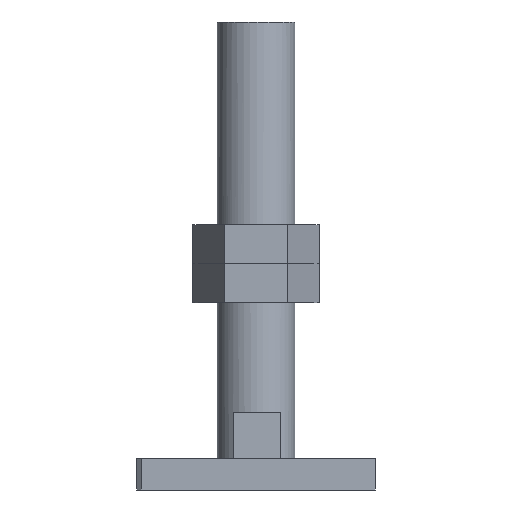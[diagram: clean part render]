
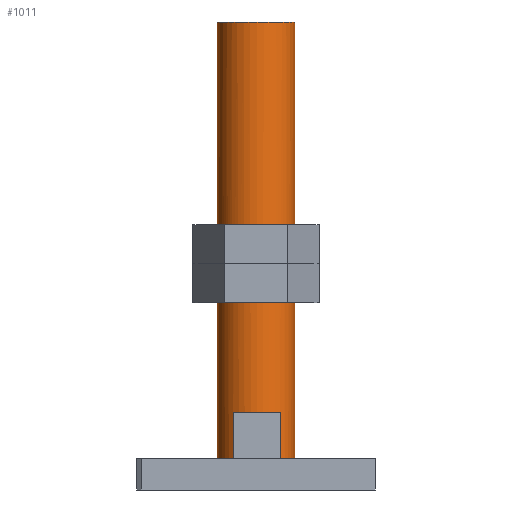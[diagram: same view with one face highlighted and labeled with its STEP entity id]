
A CAD part, front view. The second image highlights one B-rep face of the part: STEP entity #1011.
In plain terms, the highlighted cylindrical face has radius 5 mm (diameter 10 mm), a partial arc.
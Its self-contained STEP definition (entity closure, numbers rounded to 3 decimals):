
#72 = CARTESIAN_POINT ( 'NONE',  ( 0., 0., 4. ) ) ;
#95 = DIRECTION ( 'NONE',  ( 0., 0., -1. ) ) ;
#96 = EDGE_CURVE ( 'NONE', #205, #1031, #1049, .T. ) ;
#99 = LINE ( 'NONE', #373, #568 ) ;
#111 = CARTESIAN_POINT ( 'NONE',  ( -5., 0., 60. ) ) ;
#113 = DIRECTION ( 'NONE',  ( 0., 0., -1. ) ) ;
#117 = VECTOR ( 'NONE', #1103, 1000. ) ;
#135 = ORIENTED_EDGE ( 'NONE', *, *, #1098, .T. ) ;
#142 = VERTEX_POINT ( 'NONE', #111 ) ;
#152 = EDGE_CURVE ( 'NONE', #142, #787, #929, .T. ) ;
#154 = CARTESIAN_POINT ( 'NONE',  ( 3., -4., 60. ) ) ;
#175 = ORIENTED_EDGE ( 'NONE', *, *, #585, .T. ) ;
#178 = DIRECTION ( 'NONE',  ( 1., 0., 0. ) ) ;
#184 = CARTESIAN_POINT ( 'NONE',  ( -3., -4., 60. ) ) ;
#205 = VERTEX_POINT ( 'NONE', #578 ) ;
#221 = DIRECTION ( 'NONE',  ( -1., 0., 0. ) ) ;
#229 = CIRCLE ( 'NONE', #1000, 5. ) ;
#250 = AXIS2_PLACEMENT_3D ( 'NONE', #664, #979, #501 ) ;
#264 = DIRECTION ( 'NONE',  ( 0., 0., -1. ) ) ;
#315 = CARTESIAN_POINT ( 'NONE',  ( 0., 0., 4. ) ) ;
#373 = CARTESIAN_POINT ( 'NONE',  ( 5., 0., 60. ) ) ;
#374 = VERTEX_POINT ( 'NONE', #537 ) ;
#419 = EDGE_CURVE ( 'NONE', #690, #1059, #229, .T. ) ;
#421 = CARTESIAN_POINT ( 'NONE',  ( 3., -4., 10. ) ) ;
#429 = FACE_OUTER_BOUND ( 'NONE', #624, .T. ) ;
#451 = VECTOR ( 'NONE', #113, 1000. ) ;
#486 = CARTESIAN_POINT ( 'NONE',  ( -5., 0., 4. ) ) ;
#501 = DIRECTION ( 'NONE',  ( 1., 0., 0. ) ) ;
#508 = DIRECTION ( 'NONE',  ( 1., 0., 0. ) ) ;
#537 = CARTESIAN_POINT ( 'NONE',  ( -3., -4., 4. ) ) ;
#568 = VECTOR ( 'NONE', #95, 1000. ) ;
#578 = CARTESIAN_POINT ( 'NONE',  ( -3., -4., 10. ) ) ;
#585 = EDGE_CURVE ( 'NONE', #374, #205, #642, .T. ) ;
#611 = CARTESIAN_POINT ( 'NONE',  ( 3., -4., 4. ) ) ;
#624 = EDGE_LOOP ( 'NONE', ( #988, #733, #846, #135, #175, #757, #867, #1249 ) ) ;
#642 = LINE ( 'NONE', #184, #117 ) ;
#664 = CARTESIAN_POINT ( 'NONE',  ( 0., 0., 10. ) ) ;
#690 = VERTEX_POINT ( 'NONE', #611 ) ;
#697 = CARTESIAN_POINT ( 'NONE',  ( 0., 0., 60. ) ) ;
#714 = EDGE_CURVE ( 'NONE', #1031, #690, #1221, .T. ) ;
#718 = DIRECTION ( 'NONE',  ( 0., 0., 1. ) ) ;
#733 = ORIENTED_EDGE ( 'NONE', *, *, #1253, .F. ) ;
#757 = ORIENTED_EDGE ( 'NONE', *, *, #96, .T. ) ;
#787 = VERTEX_POINT ( 'NONE', #486 ) ;
#810 = EDGE_CURVE ( 'NONE', #1071, #1059, #99, .T. ) ;
#846 = ORIENTED_EDGE ( 'NONE', *, *, #152, .T. ) ;
#850 = AXIS2_PLACEMENT_3D ( 'NONE', #697, #1009, #221 ) ;
#853 = CARTESIAN_POINT ( 'NONE',  ( -5., 0., 60. ) ) ;
#867 = ORIENTED_EDGE ( 'NONE', *, *, #714, .T. ) ;
#919 = VECTOR ( 'NONE', #264, 1000. ) ;
#929 = LINE ( 'NONE', #853, #451 ) ;
#979 = DIRECTION ( 'NONE',  ( 0., 0., 1. ) ) ;
#988 = ORIENTED_EDGE ( 'NONE', *, *, #810, .F. ) ;
#1000 = AXIS2_PLACEMENT_3D ( 'NONE', #72, #718, #178 ) ;
#1009 = DIRECTION ( 'NONE',  ( 0., 0., -1. ) ) ;
#1011 = ADVANCED_FACE ( 'NONE', ( #429 ), #1128, .T. ) ;
#1031 = VERTEX_POINT ( 'NONE', #421 ) ;
#1039 = CARTESIAN_POINT ( 'NONE',  ( 0., 0., 60. ) ) ;
#1049 = CIRCLE ( 'NONE', #250, 5. ) ;
#1059 = VERTEX_POINT ( 'NONE', #1209 ) ;
#1071 = VERTEX_POINT ( 'NONE', #1095 ) ;
#1091 = DIRECTION ( 'NONE',  ( 0., 0., 1. ) ) ;
#1095 = CARTESIAN_POINT ( 'NONE',  ( 5., 0., 60. ) ) ;
#1098 = EDGE_CURVE ( 'NONE', #787, #374, #1136, .T. ) ;
#1103 = DIRECTION ( 'NONE',  ( 0., 0., 1. ) ) ;
#1110 = AXIS2_PLACEMENT_3D ( 'NONE', #1039, #1138, #1233 ) ;
#1117 = AXIS2_PLACEMENT_3D ( 'NONE', #315, #1091, #508 ) ;
#1125 = CIRCLE ( 'NONE', #1110, 5. ) ;
#1128 = CYLINDRICAL_SURFACE ( 'NONE', #850, 5. ) ;
#1136 = CIRCLE ( 'NONE', #1117, 5. ) ;
#1138 = DIRECTION ( 'NONE',  ( 0., 0., 1. ) ) ;
#1209 = CARTESIAN_POINT ( 'NONE',  ( 5., 0., 4. ) ) ;
#1221 = LINE ( 'NONE', #154, #919 ) ;
#1233 = DIRECTION ( 'NONE',  ( 1., 0., 0. ) ) ;
#1249 = ORIENTED_EDGE ( 'NONE', *, *, #419, .T. ) ;
#1253 = EDGE_CURVE ( 'NONE', #142, #1071, #1125, .T. ) ;
